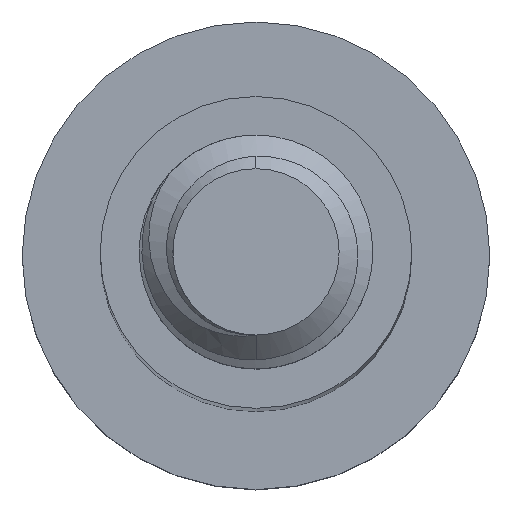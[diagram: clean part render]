
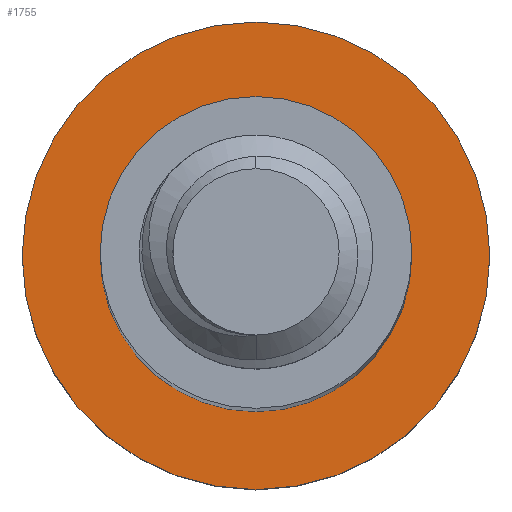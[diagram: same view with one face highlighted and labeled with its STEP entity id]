
A CAD part, top view. The second image highlights one B-rep face of the part: STEP entity #1755.
In plain terms, the highlighted planar face has unit normal (0, 0, 1).
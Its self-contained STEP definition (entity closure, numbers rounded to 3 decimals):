
#133 = DIRECTION ( 'NONE',  ( -1., 0., 0. ) ) ;
#137 = AXIS2_PLACEMENT_3D ( 'NONE', #499, #1242, #2079 ) ;
#363 = ORIENTED_EDGE ( 'NONE', *, *, #612, .F. ) ;
#388 = VERTEX_POINT ( 'NONE', #425 ) ;
#393 = EDGE_CURVE ( 'NONE', #388, #1563, #1280, .T. ) ;
#402 = CIRCLE ( 'NONE', #137, 2. ) ;
#418 = FACE_OUTER_BOUND ( 'NONE', #1220, .T. ) ;
#425 = CARTESIAN_POINT ( 'NONE',  ( 3., 0., -25. ) ) ;
#499 = CARTESIAN_POINT ( 'NONE',  ( 0., 0., -25. ) ) ;
#550 = CARTESIAN_POINT ( 'NONE',  ( -3., 0., -25. ) ) ;
#612 = EDGE_CURVE ( 'NONE', #1563, #388, #1169, .T. ) ;
#662 = PLANE ( 'NONE',  #770 ) ;
#697 = ORIENTED_EDGE ( 'NONE', *, *, #393, .F. ) ;
#760 = DIRECTION ( 'NONE',  ( -1., 0., 0. ) ) ;
#770 = AXIS2_PLACEMENT_3D ( 'NONE', #1369, #2042, #1194 ) ;
#771 = CARTESIAN_POINT ( 'NONE',  ( -2., 0., -25. ) ) ;
#859 = EDGE_CURVE ( 'NONE', #1665, #1911, #988, .T. ) ;
#892 = ORIENTED_EDGE ( 'NONE', *, *, #1791, .T. ) ;
#943 = DIRECTION ( 'NONE',  ( 0., 0., -1. ) ) ;
#988 = CIRCLE ( 'NONE', #1916, 2. ) ;
#1166 = AXIS2_PLACEMENT_3D ( 'NONE', #2118, #1429, #1636 ) ;
#1169 = CIRCLE ( 'NONE', #1461, 3. ) ;
#1194 = DIRECTION ( 'NONE',  ( -1., 0., 0. ) ) ;
#1220 = EDGE_LOOP ( 'NONE', ( #697, #363 ) ) ;
#1242 = DIRECTION ( 'NONE',  ( 0., 0., -1. ) ) ;
#1280 = CIRCLE ( 'NONE', #1166, 3. ) ;
#1314 = FACE_BOUND ( 'NONE', #2087, .T. ) ;
#1369 = CARTESIAN_POINT ( 'NONE',  ( 0., 0., -25. ) ) ;
#1380 = CARTESIAN_POINT ( 'NONE',  ( 0., 0., -25. ) ) ;
#1429 = DIRECTION ( 'NONE',  ( 0., 0., -1. ) ) ;
#1461 = AXIS2_PLACEMENT_3D ( 'NONE', #1380, #2055, #133 ) ;
#1506 = CARTESIAN_POINT ( 'NONE',  ( 2., 0., -25. ) ) ;
#1563 = VERTEX_POINT ( 'NONE', #550 ) ;
#1636 = DIRECTION ( 'NONE',  ( -1., 0., 0. ) ) ;
#1665 = VERTEX_POINT ( 'NONE', #1506 ) ;
#1755 = ADVANCED_FACE ( 'NONE', ( #1314, #418 ), #662, .F. ) ;
#1791 = EDGE_CURVE ( 'NONE', #1911, #1665, #402, .T. ) ;
#1911 = VERTEX_POINT ( 'NONE', #771 ) ;
#1916 = AXIS2_PLACEMENT_3D ( 'NONE', #2136, #943, #760 ) ;
#2042 = DIRECTION ( 'NONE',  ( 0., 0., -1. ) ) ;
#2049 = ORIENTED_EDGE ( 'NONE', *, *, #859, .T. ) ;
#2055 = DIRECTION ( 'NONE',  ( 0., 0., -1. ) ) ;
#2079 = DIRECTION ( 'NONE',  ( -1., 0., 0. ) ) ;
#2087 = EDGE_LOOP ( 'NONE', ( #892, #2049 ) ) ;
#2118 = CARTESIAN_POINT ( 'NONE',  ( 0., 0., -25. ) ) ;
#2136 = CARTESIAN_POINT ( 'NONE',  ( 0., 0., -25. ) ) ;
